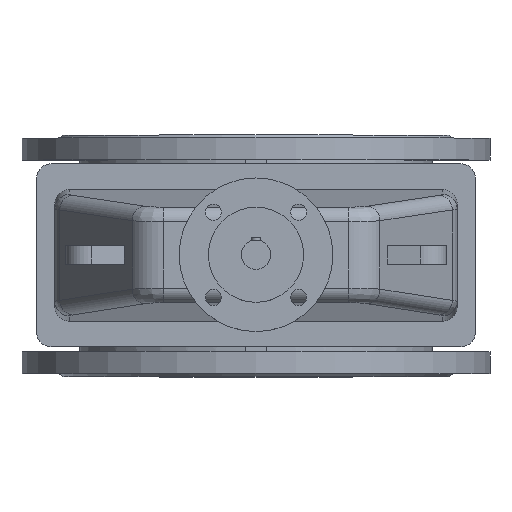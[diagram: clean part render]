
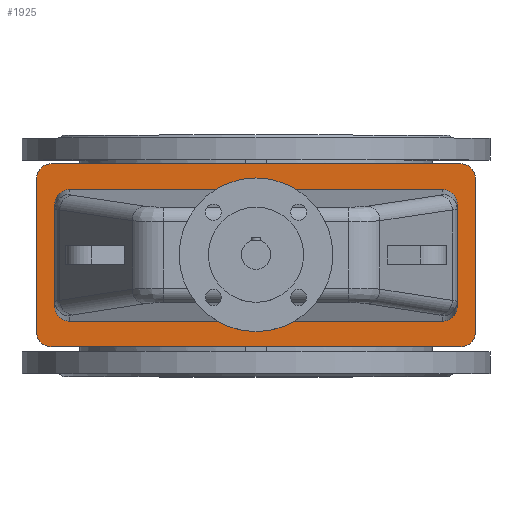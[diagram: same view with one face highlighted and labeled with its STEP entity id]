
A CAD part, top view. The second image highlights one B-rep face of the part: STEP entity #1925.
In plain terms, the highlighted planar face has unit normal (0, 0, 1).
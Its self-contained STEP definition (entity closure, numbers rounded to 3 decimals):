
#1925=ADVANCED_FACE('',(#5832,#5834),#5836,.T.);
#5832=FACE_BOUND('',#5833,.T.);
#5833=EDGE_LOOP('',(#7855,#7856,#7857,#7858,#7859,#7860,#7861,#7862));
#5834=FACE_BOUND('',#5835,.T.);
#5835=EDGE_LOOP('',(#7863,#7864,#7865,#7866,#7867,#7868,#7869,#7870));
#5836=PLANE('',#5837);
#5837=AXIS2_PLACEMENT_3D('',#5838,#5839,#5840);
#5838=CARTESIAN_POINT('',(0.,0.,566.));
#5839=DIRECTION('',(0.,-0.,1.));
#5840=DIRECTION('',(0.,1.,0.));
#7855=ORIENTED_EDGE('',*,*,#8599,.F.);
#7856=ORIENTED_EDGE('',*,*,#8612,.T.);
#7857=ORIENTED_EDGE('',*,*,#8611,.F.);
#7858=ORIENTED_EDGE('',*,*,#8609,.T.);
#7859=ORIENTED_EDGE('',*,*,#8607,.F.);
#7860=ORIENTED_EDGE('',*,*,#8605,.T.);
#7861=ORIENTED_EDGE('',*,*,#8603,.F.);
#7862=ORIENTED_EDGE('',*,*,#8600,.T.);
#7863=ORIENTED_EDGE('',*,*,#8613,.F.);
#7864=ORIENTED_EDGE('',*,*,#8614,.F.);
#7865=ORIENTED_EDGE('',*,*,#8615,.F.);
#7866=ORIENTED_EDGE('',*,*,#8616,.F.);
#7867=ORIENTED_EDGE('',*,*,#8617,.F.);
#7868=ORIENTED_EDGE('',*,*,#8618,.F.);
#7869=ORIENTED_EDGE('',*,*,#8619,.F.);
#7870=ORIENTED_EDGE('',*,*,#8620,.F.);
#8599=EDGE_CURVE('',#9559,#9557,#9561,.F.);
#8600=EDGE_CURVE('',#9562,#9557,#9563,.T.);
#8603=EDGE_CURVE('',#9562,#9565,#9567,.F.);
#8605=EDGE_CURVE('',#9568,#9565,#9570,.T.);
#8607=EDGE_CURVE('',#9568,#9571,#9573,.F.);
#8609=EDGE_CURVE('',#9574,#9571,#9576,.T.);
#8611=EDGE_CURVE('',#9574,#9577,#9579,.F.);
#8612=EDGE_CURVE('',#9559,#9577,#9580,.T.);
#8613=EDGE_CURVE('',#9581,#9582,#9583,.F.);
#8614=EDGE_CURVE('',#9584,#9581,#9585,.T.);
#8615=EDGE_CURVE('',#9586,#9584,#9587,.T.);
#8616=EDGE_CURVE('',#9588,#9586,#9589,.T.);
#8617=EDGE_CURVE('',#9590,#9588,#9591,.F.);
#8618=EDGE_CURVE('',#9592,#9590,#9593,.T.);
#8619=EDGE_CURVE('',#9594,#9592,#9595,.T.);
#8620=EDGE_CURVE('',#9582,#9594,#9596,.T.);
#9557=VERTEX_POINT('',#12245);
#9559=VERTEX_POINT('',#12249);
#9561=CIRCLE('',#12253,20.);
#9562=VERTEX_POINT('',#12257);
#9563=LINE('',#12258,#12259);
#9565=VERTEX_POINT('',#12264);
#9567=CIRCLE('',#12268,20.);
#9568=VERTEX_POINT('',#12272);
#9570=LINE('',#12276,#12277);
#9571=VERTEX_POINT('',#12279);
#9573=CIRCLE('',#12283,20.);
#9574=VERTEX_POINT('',#12287);
#9576=LINE('',#12291,#12292);
#9577=VERTEX_POINT('',#12294);
#9579=CIRCLE('',#12298,20.);
#9580=LINE('',#12302,#12303);
#9581=VERTEX_POINT('',#12305);
#9582=VERTEX_POINT('',#12306);
#9583=(BOUNDED_CURVE()B_SPLINE_CURVE(3,
(#12307,#12308,#12309,#12310),
.UNSPECIFIED.,.F.,.F.)B_SPLINE_CURVE_WITH_KNOTS((4,4),
(0.,1.),
.UNSPECIFIED.)CURVE()GEOMETRIC_REPRESENTATION_ITEM()RATIONAL_B_SPLINE_CURVE((1.,
0.805,0.805,1.))REPRESENTATION_ITEM(''));
#9584=VERTEX_POINT('',#12311);
#9585=LINE('',#12312,#12313);
#9586=VERTEX_POINT('',#12315);
#9587=(BOUNDED_CURVE()B_SPLINE_CURVE(3,
(#12316,#12317,#12318,#12319),
.UNSPECIFIED.,.F.,.F.)B_SPLINE_CURVE_WITH_KNOTS((4,4),
(0.,1.),
.UNSPECIFIED.)CURVE()GEOMETRIC_REPRESENTATION_ITEM()RATIONAL_B_SPLINE_CURVE((1.,
0.805,0.805,1.))REPRESENTATION_ITEM(''));
#9588=VERTEX_POINT('',#12320);
#9589=LINE('',#12321,#12322);
#9590=VERTEX_POINT('',#12324);
#9591=(BOUNDED_CURVE()B_SPLINE_CURVE(3,
(#12325,#12326,#12327,#12328),
.UNSPECIFIED.,.F.,.F.)B_SPLINE_CURVE_WITH_KNOTS((4,4),
(0.,1.),
.UNSPECIFIED.)CURVE()GEOMETRIC_REPRESENTATION_ITEM()RATIONAL_B_SPLINE_CURVE((1.,
0.805,0.805,1.))REPRESENTATION_ITEM(''));
#9592=VERTEX_POINT('',#12329);
#9593=LINE('',#12330,#12331);
#9594=VERTEX_POINT('',#12333);
#9595=(BOUNDED_CURVE()B_SPLINE_CURVE(3,
(#12334,#12335,#12336,#12337),
.UNSPECIFIED.,.F.,.F.)B_SPLINE_CURVE_WITH_KNOTS((4,4),
(0.,1.),
.UNSPECIFIED.)CURVE()GEOMETRIC_REPRESENTATION_ITEM()RATIONAL_B_SPLINE_CURVE((1.,
0.805,0.805,1.))REPRESENTATION_ITEM(''));
#9596=LINE('',#12338,#12339);
#12245=CARTESIAN_POINT('',(-300.,-105.,566.));
#12249=CARTESIAN_POINT('',(-280.,-125.,566.));
#12253=AXIS2_PLACEMENT_3D('',#12254,#12255,#12256);
#12254=CARTESIAN_POINT('',(-280.,-105.,566.));
#12255=DIRECTION('',(0.,-0.,1.));
#12256=DIRECTION('',(-1.,0.,0.));
#12257=CARTESIAN_POINT('',(-300.,105.,566.));
#12258=CARTESIAN_POINT('',(-300.,105.,566.));
#12259=VECTOR('',#12260,1.);
#12260=DIRECTION('',(0.,-1.,0.));
#12264=CARTESIAN_POINT('',(-280.,125.,566.));
#12268=AXIS2_PLACEMENT_3D('',#12269,#12270,#12271);
#12269=CARTESIAN_POINT('',(-280.,105.,566.));
#12270=DIRECTION('',(0.,-0.,1.));
#12271=DIRECTION('',(0.,1.,0.));
#12272=CARTESIAN_POINT('',(280.,125.,566.));
#12276=CARTESIAN_POINT('',(280.,125.,566.));
#12277=VECTOR('',#12278,1.);
#12278=DIRECTION('',(-1.,0.,0.));
#12279=CARTESIAN_POINT('',(300.,105.,566.));
#12283=AXIS2_PLACEMENT_3D('',#12284,#12285,#12286);
#12284=CARTESIAN_POINT('',(280.,105.,566.));
#12285=DIRECTION('',(0.,-0.,1.));
#12286=DIRECTION('',(1.,0.,0.));
#12287=CARTESIAN_POINT('',(300.,-105.,566.));
#12291=CARTESIAN_POINT('',(300.,-105.,566.));
#12292=VECTOR('',#12293,1.);
#12293=DIRECTION('',(0.,1.,0.));
#12294=CARTESIAN_POINT('',(280.,-125.,566.));
#12298=AXIS2_PLACEMENT_3D('',#12299,#12300,#12301);
#12299=CARTESIAN_POINT('',(280.,-105.,566.));
#12300=DIRECTION('',(0.,-0.,1.));
#12301=DIRECTION('',(0.,-1.,0.));
#12302=CARTESIAN_POINT('',(-280.,-125.,566.));
#12303=VECTOR('',#12304,1.);
#12304=DIRECTION('',(1.,0.,0.));
#12305=CARTESIAN_POINT('',(255.,-90.,566.));
#12306=CARTESIAN_POINT('',(275.,-69.924,566.));
#12307=CARTESIAN_POINT('',(275.,-69.924,566.));
#12308=CARTESIAN_POINT('',(275.,-81.684,566.));
#12309=CARTESIAN_POINT('',(266.716,-90.,566.));
#12310=CARTESIAN_POINT('',(255.,-90.,566.));
#12311=CARTESIAN_POINT('',(-255.,-90.,566.));
#12312=CARTESIAN_POINT('',(-255.,-90.,566.));
#12313=VECTOR('',#12314,1.);
#12314=DIRECTION('',(1.,0.,0.));
#12315=CARTESIAN_POINT('',(-275.,-69.924,566.));
#12316=CARTESIAN_POINT('',(-275.,-69.924,566.));
#12317=CARTESIAN_POINT('',(-275.,-81.684,566.));
#12318=CARTESIAN_POINT('',(-266.716,-90.,566.));
#12319=CARTESIAN_POINT('',(-255.,-90.,566.));
#12320=CARTESIAN_POINT('',(-275.,69.924,566.));
#12321=CARTESIAN_POINT('',(-275.,69.924,566.));
#12322=VECTOR('',#12323,1.);
#12323=DIRECTION('',(0.,-1.,0.));
#12324=CARTESIAN_POINT('',(-255.,90.,566.));
#12325=CARTESIAN_POINT('',(-275.,69.924,566.));
#12326=CARTESIAN_POINT('',(-275.,81.684,566.));
#12327=CARTESIAN_POINT('',(-266.716,90.,566.));
#12328=CARTESIAN_POINT('',(-255.,90.,566.));
#12329=CARTESIAN_POINT('',(255.,90.,566.));
#12330=CARTESIAN_POINT('',(255.,90.,566.));
#12331=VECTOR('',#12332,1.);
#12332=DIRECTION('',(-1.,0.,0.));
#12333=CARTESIAN_POINT('',(275.,69.924,566.));
#12334=CARTESIAN_POINT('',(275.,69.924,566.));
#12335=CARTESIAN_POINT('',(275.,81.684,566.));
#12336=CARTESIAN_POINT('',(266.716,90.,566.));
#12337=CARTESIAN_POINT('',(255.,90.,566.));
#12338=CARTESIAN_POINT('',(275.,-69.924,566.));
#12339=VECTOR('',#12340,1.);
#12340=DIRECTION('',(0.,1.,0.));
